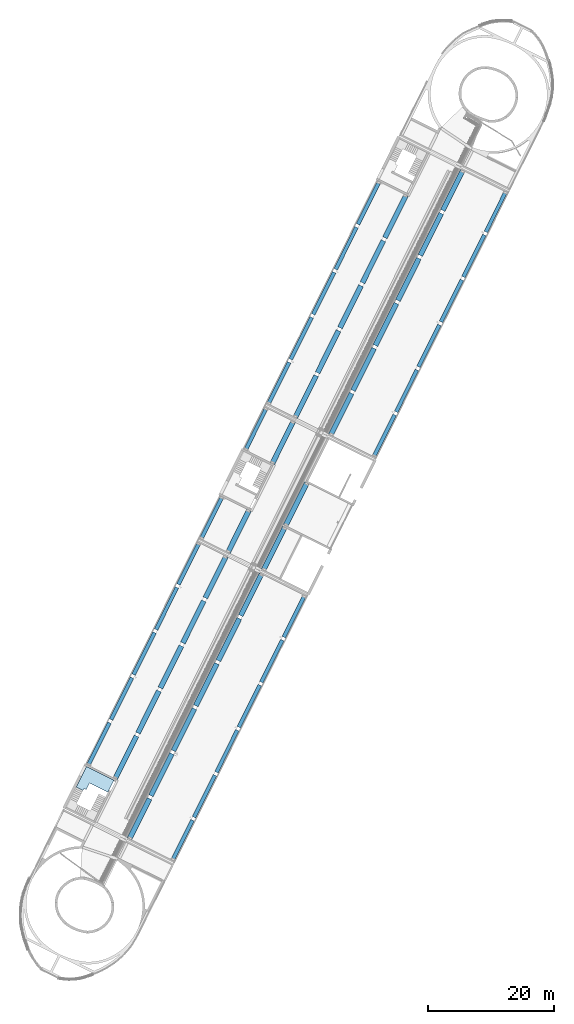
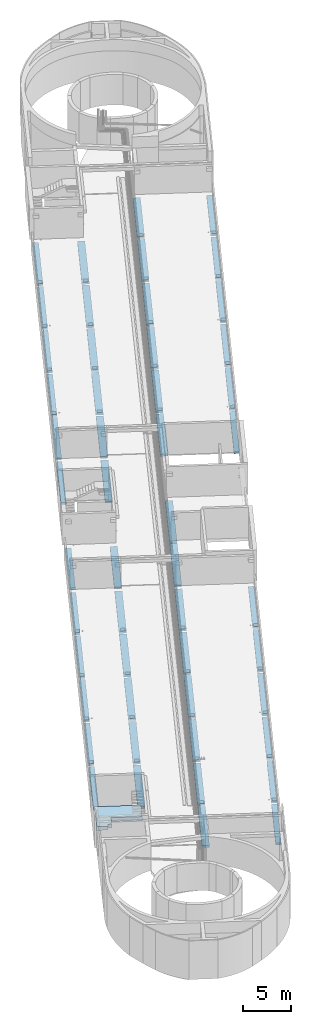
# One storey, part 1 of 47: 50 beams, 1 slab.
"""IFC2X3 building model written with IfcOpenShell, lengths in metres."""

from ifc_helpers import new_model, entity, si_unit, converted_unit, derived_unit, direction, frame, frame_2d, origin, place, context, subcontext, project, spatial, polyline, rectangle, outline, extrude, material, layer, layer_set, layer_usage, element, save


model = new_model("IFC2X3")

# Units and contexts
model_context = context("Model", 3, precision=1e-05, world=origin(), true_north=direction((0.894925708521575, 0.446215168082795)))
context_of_model = context(None, 3, precision=1e-05, world=origin(), true_north=direction((0.894925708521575, 0.446215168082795)))
body_context = subcontext(model_context, "Body", "Model", "MODEL_VIEW")
ifc_project = project(units=[si_unit("LENGTHUNIT", "METRE"), si_unit("AREAUNIT", "SQUARE_METRE"), si_unit("VOLUMEUNIT", "CUBIC_METRE"), converted_unit("PLANEANGLEUNIT", "DEGREE", entity("IfcRatioMeasure", 0.0174532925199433), si_unit("PLANEANGLEUNIT", "RADIAN"), dimensions=[0, 0, 0, 0, 0, 0, 0]), si_unit("MASSUNIT", "GRAM", prefix="KILO"), si_unit("TIMEUNIT", "SECOND"), si_unit("FREQUENCYUNIT", "HERTZ"), si_unit("THERMODYNAMICTEMPERATUREUNIT", "DEGREE_CELSIUS"), derived_unit("THERMALTRANSMITTANCEUNIT", [(si_unit("MASSUNIT", "GRAM", prefix="KILO"), 1), (si_unit("THERMODYNAMICTEMPERATUREUNIT", "KELVIN"), -1), (si_unit("TIMEUNIT", "SECOND"), -3)]), derived_unit("VOLUMETRICFLOWRATEUNIT", [(si_unit("LENGTHUNIT", "METRE"), 3), (si_unit("TIMEUNIT", "SECOND"), -1)]), si_unit("ELECTRICCURRENTUNIT", "AMPERE"), si_unit("ELECTRICVOLTAGEUNIT", "VOLT"), si_unit("POWERUNIT", "WATT"), si_unit("FORCEUNIT", "NEWTON", prefix="KILO"), si_unit("ILLUMINANCEUNIT", "LUX"), si_unit("LUMINOUSFLUXUNIT", "LUMEN"), si_unit("LUMINOUSINTENSITYUNIT", "CANDELA"), si_unit("PRESSUREUNIT", "PASCAL")], contexts=[model_context, context_of_model])

# Site, building, storey
site_placement = place(None, frame((218.228324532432, 584.720189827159, 0.0), z_axis=(0.0, 0.0, 1.0), x_axis=(0.446215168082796, 0.894925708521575, 0.0)))
site = spatial("IfcSite", under=ifc_project, at=site_placement, Name="Default", CompositionType="ELEMENT")
building_placement = place(site_placement, origin())
building = spatial("IfcBuilding", under=site, at=building_placement, CompositionType="ELEMENT")
storey_placement = place(building_placement, frame((0.0, 0.0, 4.69)))
storey = spatial("IfcBuildingStorey", under=building, at=storey_placement, Name="1 - Piano Primo", CompositionType="ELEMENT", Elevation=4.69)

# Beams
beam_1_placement = place(storey_placement, frame((-44.5906659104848, 5.81892100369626, -0.4)))
element("IfcBeam", 1, at=beam_1_placement, inside=storey, Name="Prefabbricato - Trave rettangolare:TRave pref - 60 x 26", ObjectType="Prefabbricato - Trave rettangolare:TRave pref - 60 x 26", context=body_context, shape_type="SweptSolid", body=[
    extrude(rectangle(XDim=0.26, YDim=0.600000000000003, at=frame_2d((-2.77555756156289e-16, 2.32869279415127e-14), x_axis=(1.0, 0.0))), frame((0.0104069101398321, 0.0, -0.130000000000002), z_axis=(1.0, 0.0, 0.0), x_axis=(0.0, 0.0, -1.0)), (0.0, 0.0, 1.0), 7.462),
])
beam_2_placement = place(storey_placement, frame((-52.8544493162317, 5.81892100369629, -0.4)))
element("IfcBeam", 2, at=beam_2_placement, inside=storey, Name="Prefabbricato - Trave rettangolare:TRave pref - 60 x 26", ObjectType="Prefabbricato - Trave rettangolare:TRave pref - 60 x 26", context=body_context, shape_type="SweptSolid", body=[
    extrude(rectangle(XDim=0.26, YDim=0.600000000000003, at=frame_2d((-2.63677968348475e-16, 2.54518628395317e-14), x_axis=(1.0, 0.0))), frame((0.154999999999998, 0.0, -0.130000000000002), z_axis=(1.0, 0.0, 0.0), x_axis=(0.0, 0.0, -1.0)), (0.0, 0.0, 1.0), 7.578),
])
beam_3_placement = place(storey_placement, frame((-36.587852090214, 5.81892100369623, -0.4)))
element("IfcBeam", 3, at=beam_3_placement, inside=storey, Name="Prefabbricato - Trave rettangolare:TRave pref - 60 x 26", ObjectType="Prefabbricato - Trave rettangolare:TRave pref - 60 x 26", context=body_context, shape_type="SweptSolid", body=[
    extrude(rectangle(XDim=0.26, YDim=0.600000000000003, at=frame_2d((-2.77555756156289e-16, 2.32869279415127e-14), x_axis=(1.0, 0.0))), frame((0.0104069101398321, 0.0, -0.130000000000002), z_axis=(1.0, 0.0, 0.0), x_axis=(0.0, 0.0, -1.0)), (0.0, 0.0, 1.0), 7.465),
])
beam_4_placement = place(storey_placement, frame((-28.5822204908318, 5.81892100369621, -0.4)))
element("IfcBeam", 4, at=beam_4_placement, inside=storey, Name="Prefabbricato - Trave rettangolare:TRave pref - 60 x 26", ObjectType="Prefabbricato - Trave rettangolare:TRave pref - 60 x 26", context=body_context, shape_type="SweptSolid", body=[
    extrude(rectangle(XDim=0.26, YDim=0.600000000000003, at=frame_2d((-2.77555756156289e-16, 2.32869279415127e-14), x_axis=(1.0, 0.0))), frame((0.0104069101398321, 0.0, -0.130000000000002), z_axis=(1.0, 0.0, 0.0), x_axis=(0.0, 0.0, -1.0)), (0.0, 0.0, 1.0), 7.463),
])
beam_5_placement = place(storey_placement, frame((-20.5643716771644, 5.81892100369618, -0.400000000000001)))
element("IfcBeam", 5, at=beam_5_placement, inside=storey, Name="Prefabbricato - Trave rettangolare:TRave pref - 60 x 26", ObjectType="Prefabbricato - Trave rettangolare:TRave pref - 60 x 26", context=body_context, shape_type="SweptSolid", body=[
    extrude(rectangle(XDim=0.26, YDim=0.600000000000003, at=frame_2d((2.77555756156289e-16, 2.38420394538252e-14), x_axis=(1.0, 0.0))), frame((-0.00500000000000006, 0.0, -0.130000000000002), z_axis=(1.0, 0.0, 0.0), x_axis=(0.0, 0.0, -1.0)), (0.0, 0.0, 1.0), 7.365),
])
beam_6_placement = place(storey_placement, frame((-44.5906659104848, 1.04892100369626, -0.4)))
element("IfcBeam", 6, at=beam_6_placement, inside=storey, Name="Prefabbricato - Trave rettangolare:TRave pref - 80 x 26", ObjectType="Prefabbricato - Trave rettangolare:TRave pref - 80 x 26", context=body_context, shape_type="SweptSolid", body=[
    extrude(rectangle(XDim=0.26, YDim=0.800000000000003, at=frame_2d((-2.63677968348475e-16, 2.38142838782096e-14), x_axis=(1.0, 0.0))), frame((0.000406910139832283, 0.0, -0.130000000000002), z_axis=(1.0, 0.0, 0.0), x_axis=(0.0, 0.0, -1.0)), (0.0, 0.0, 1.0), 7.482),
])
beam_7_placement = place(storey_placement, frame((-52.6975115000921, 1.04892100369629, -0.4)))
element("IfcBeam", 7, at=beam_7_placement, inside=storey, Name="Prefabbricato - Trave rettangolare:TRave pref - 80 x 26", ObjectType="Prefabbricato - Trave rettangolare:TRave pref - 80 x 26", context=body_context, shape_type="SweptSolid", body=[
    extrude(rectangle(XDim=0.26, YDim=0.800000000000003, at=frame_2d((-2.63677968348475e-16, 2.38142838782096e-14), x_axis=(1.0, 0.0))), frame((0.000499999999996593, 0.0, -0.130000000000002), z_axis=(1.0, 0.0, 0.0), x_axis=(0.0, 0.0, -1.0)), (0.0, 0.0, 1.0), 7.586),
])
beam_8_placement = place(storey_placement, frame((-36.587852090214, 1.04892100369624, -0.4)))
element("IfcBeam", 8, at=beam_8_placement, inside=storey, Name="Prefabbricato - Trave rettangolare:TRave pref - 80 x 26", ObjectType="Prefabbricato - Trave rettangolare:TRave pref - 80 x 26", context=body_context, shape_type="SweptSolid", body=[
    extrude(rectangle(XDim=0.26, YDim=0.800000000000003, at=frame_2d((-2.63677968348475e-16, 2.38142838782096e-14), x_axis=(1.0, 0.0))), frame((0.000406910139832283, 0.0, -0.130000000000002), z_axis=(1.0, 0.0, 0.0), x_axis=(0.0, 0.0, -1.0)), (0.0, 0.0, 1.0), 7.485),
])
beam_9_placement = place(storey_placement, frame((-28.5822204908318, 1.04892100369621, -0.4)))
element("IfcBeam", 9, at=beam_9_placement, inside=storey, Name="Prefabbricato - Trave rettangolare:TRave pref - 80 x 26", ObjectType="Prefabbricato - Trave rettangolare:TRave pref - 80 x 26", context=body_context, shape_type="SweptSolid", body=[
    extrude(rectangle(XDim=0.26, YDim=0.800000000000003, at=frame_2d((-2.63677968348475e-16, 2.38142838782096e-14), x_axis=(1.0, 0.0))), frame((0.000406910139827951, 0.0, -0.130000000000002), z_axis=(1.0, 0.0, 0.0), x_axis=(0.0, 0.0, -1.0)), (0.0, 0.0, 1.0), 7.483),
])
beam_10_placement = place(storey_placement, frame((-20.5643716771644, 1.04892100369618, -0.400000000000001)))
element("IfcBeam", 10, at=beam_10_placement, inside=storey, Name="Prefabbricato - Trave rettangolare:TRave pref - 80 x 26", ObjectType="Prefabbricato - Trave rettangolare:TRave pref - 80 x 26", context=body_context, shape_type="SweptSolid", body=[
    extrude(rectangle(XDim=0.26, YDim=0.800000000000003, at=frame_2d((2.77555756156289e-16, 2.35644836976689e-14), x_axis=(1.0, 0.0))), frame((-0.0149999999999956, 0.0, -0.130000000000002), z_axis=(1.0, 0.0, 0.0), x_axis=(0.0, 0.0, -1.0)), (0.0, 0.0, 1.0), 7.395),
])
beam_11_placement = place(storey_placement, frame((-44.5906659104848, -5.25107899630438, -0.4)))
element("IfcBeam", 11, at=beam_11_placement, inside=storey, Name="Prefabbricato - Trave rettangolare:TRave pref - 80 x 26", ObjectType="Prefabbricato - Trave rettangolare:TRave pref - 80 x 26", context=body_context, shape_type="SweptSolid", body=[
    extrude(rectangle(XDim=0.26, YDim=0.800000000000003, at=frame_2d((-2.63677968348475e-16, 2.43693953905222e-14), x_axis=(1.0, 0.0))), frame((0.000406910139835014, 0.0, -0.130000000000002), z_axis=(1.0, 0.0, 0.0), x_axis=(0.0, 0.0, -1.0)), (0.0, 0.0, 1.0), 7.482),
])
beam_12_placement = place(storey_placement, frame((-52.6798562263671, -5.25107899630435, -0.4)))
element("IfcBeam", 12, at=beam_12_placement, inside=storey, Name="Prefabbricato - Trave rettangolare:TRave pref - 80 x 26", ObjectType="Prefabbricato - Trave rettangolare:TRave pref - 80 x 26", context=body_context, shape_type="SweptSolid", body=[
    extrude(rectangle(XDim=0.26, YDim=0.800000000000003, at=frame_2d((-2.63677968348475e-16, 2.35644836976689e-14), x_axis=(1.0, 0.0))), frame((0.0961723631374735, 0.0, -0.130000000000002), z_axis=(1.0, 0.0, 0.0), x_axis=(0.0, 0.0, -1.0)), (0.0, 0.0, 1.0), 7.473),
])
beam_13_placement = place(storey_placement, frame((-37.1078520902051, -5.2510789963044, -0.4)))
element("IfcBeam", 13, at=beam_13_placement, inside=storey, Name="Prefabbricato - Trave rettangolare:TRave pref - 80 x 26", ObjectType="Prefabbricato - Trave rettangolare:TRave pref - 80 x 26", context=body_context, shape_type="SweptSolid", body=[
    extrude(rectangle(XDim=0.26, YDim=0.800000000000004, at=frame_2d((-2.63677968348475e-16, 2.32869279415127e-14), x_axis=(1.0, 0.0))), frame((0.520315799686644, 0.0, -0.130000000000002), z_axis=(1.0, 0.0, 0.0), x_axis=(0.0, 0.0, -1.0)), (0.0, 0.0, 1.0), 7.48500000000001),
])
beam_14_placement = place(storey_placement, frame((-28.5822204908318, -5.25107899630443, -0.4)))
element("IfcBeam", 14, at=beam_14_placement, inside=storey, Name="Prefabbricato - Trave rettangolare:TRave pref - 80 x 26", ObjectType="Prefabbricato - Trave rettangolare:TRave pref - 80 x 26", context=body_context, shape_type="SweptSolid", body=[
    extrude(rectangle(XDim=0.26, YDim=0.800000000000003, at=frame_2d((-2.63677968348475e-16, 2.43693953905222e-14), x_axis=(1.0, 0.0))), frame((-0.000593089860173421, 0.0, -0.130000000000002), z_axis=(1.0, 0.0, 0.0), x_axis=(0.0, 0.0, -1.0)), (0.0, 0.0, 1.0), 7.484),
])
beam_15_placement = place(storey_placement, frame((-20.5443716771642, -5.25107899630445, -0.400000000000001)))
element("IfcBeam", 15, at=beam_15_placement, inside=storey, Name="Prefabbricato - Trave rettangolare:TRave pref - 80 x 26", ObjectType="Prefabbricato - Trave rettangolare:TRave pref - 80 x 26", context=body_context, shape_type="SweptSolid", body=[
    extrude(rectangle(XDim=0.26, YDim=0.800000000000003, at=frame_2d((2.63677968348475e-16, 2.32869279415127e-14), x_axis=(1.0, 0.0))), frame((-0.0350000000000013, 0.0, -0.130000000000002), z_axis=(1.0, 0.0, 0.0), x_axis=(0.0, 0.0, -1.0)), (0.0, 0.0, 1.0), 7.395),
])
beam_16_placement = place(storey_placement, frame((-44.5906659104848, -12.9010789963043, -0.4)))
element("IfcBeam", 16, at=beam_16_placement, inside=storey, Name="Prefabbricato - Trave rettangolare:TRave pref - 60 x 26", ObjectType="Prefabbricato - Trave rettangolare:TRave pref - 60 x 26", context=body_context, shape_type="SweptSolid", body=[
    extrude(rectangle(XDim=0.26, YDim=0.600000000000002, at=frame_2d((-2.63677968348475e-16, -2.38142838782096e-14), x_axis=(1.0, 0.0))), frame((0.0104069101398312, 0.0, -0.130000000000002), z_axis=(1.0, 0.0, 0.0), x_axis=(0.0, 0.0, -1.0)), (0.0, 0.0, 1.0), 7.462),
])
beam_17_placement = place(storey_placement, frame((-36.5878520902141, -12.9010789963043, -0.4)))
element("IfcBeam", 17, at=beam_17_placement, inside=storey, Name="Prefabbricato - Trave rettangolare:TRave pref - 60 x 26", ObjectType="Prefabbricato - Trave rettangolare:TRave pref - 60 x 26", context=body_context, shape_type="SweptSolid", body=[
    extrude(rectangle(XDim=0.26, YDim=0.600000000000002, at=frame_2d((-2.63677968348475e-16, -2.38142838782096e-14), x_axis=(1.0, 0.0))), frame((0.0104069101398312, 0.0, -0.130000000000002), z_axis=(1.0, 0.0, 0.0), x_axis=(0.0, 0.0, -1.0)), (0.0, 0.0, 1.0), 7.465),
])
beam_18_placement = place(storey_placement, frame((-28.5822204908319, -12.9010789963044, -0.4)))
element("IfcBeam", 18, at=beam_18_placement, inside=storey, Name="Prefabbricato - Trave rettangolare:TRave pref - 60 x 26", ObjectType="Prefabbricato - Trave rettangolare:TRave pref - 60 x 26", context=body_context, shape_type="SweptSolid", body=[
    extrude(rectangle(XDim=0.26, YDim=0.600000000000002, at=frame_2d((-2.63677968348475e-16, -2.38142838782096e-14), x_axis=(1.0, 0.0))), frame((0.0104069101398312, 0.0, -0.130000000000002), z_axis=(1.0, 0.0, 0.0), x_axis=(0.0, 0.0, -1.0)), (0.0, 0.0, 1.0), 7.463),
])
beam_19_placement = place(storey_placement, frame((-20.5443716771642, -12.9010789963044, -0.400000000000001)))
element("IfcBeam", 19, at=beam_19_placement, inside=storey, Name="Prefabbricato - Trave rettangolare:TRave pref - 60 x 26", ObjectType="Prefabbricato - Trave rettangolare:TRave pref - 60 x 26", context=body_context, shape_type="SweptSolid", body=[
    extrude(rectangle(XDim=0.26, YDim=0.600000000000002, at=frame_2d((2.63677968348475e-16, -2.38142838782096e-14), x_axis=(1.0, 0.0))), frame((-0.0250000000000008, 0.0, -0.130000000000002), z_axis=(1.0, 0.0, 0.0), x_axis=(0.0, 0.0, -1.0)), (0.0, 0.0, 1.0), 7.385),
])
beam_20_placement = place(storey_placement, frame((-52.6798562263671, -12.9010789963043, -0.4)))
element("IfcBeam", 20, at=beam_20_placement, inside=storey, Name="Prefabbricato - Trave rettangolare:TRave pref - 60 x 26", ObjectType="Prefabbricato - Trave rettangolare:TRave pref - 60 x 26", context=body_context, shape_type="SweptSolid", body=[
    extrude(rectangle(XDim=0.26, YDim=0.600000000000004, at=frame_2d((-2.77555756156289e-16, 2.27595720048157e-14), x_axis=(1.0, 0.0))), frame((0.106172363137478, 0.0, -0.130000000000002), z_axis=(1.0, 0.0, 0.0), x_axis=(0.0, 0.0, -1.0)), (0.0, 0.0, 1.0), 7.45300000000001),
])
beam_21_placement = place(storey_placement, frame((-52.6798562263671, -12.9010789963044, -0.4), z_axis=(0.0, 0.0, 1.0), x_axis=(-1.0, 0.0, 0.0)))
element("IfcBeam", 21, at=beam_21_placement, inside=storey, Name="Prefabbricato - Trave rettangolare:TRave pref - 60 x 26", ObjectType="Prefabbricato - Trave rettangolare:TRave pref - 60 x 26", context=body_context, shape_type="SweptSolid", body=[
    extrude(rectangle(XDim=0.26, YDim=0.600000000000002, at=frame_2d((-2.77555756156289e-16, 2.38420394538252e-14), x_axis=(1.0, 0.0))), frame((0.434296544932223, 0.0, -0.130000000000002), z_axis=(1.0, 0.0, 0.0), x_axis=(0.0, 0.0, -1.0)), (0.0, 0.0, 1.0), 7.115),
])
beam_22_placement = place(storey_placement, frame((-60.2206070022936, -5.25107899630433, -0.4)))
element("IfcBeam", 22, at=beam_22_placement, inside=storey, Name="Prefabbricato - Trave rettangolare:TRave pref - 80 x 26", ObjectType="Prefabbricato - Trave rettangolare:TRave pref - 80 x 26", context=body_context, shape_type="SweptSolid", body=[
    extrude(rectangle(XDim=0.26, YDim=0.800000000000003, at=frame_2d((-2.77555756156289e-16, 2.19269047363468e-14), x_axis=(1.0, 0.0))), frame((0.0, 0.0, -0.130000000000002), z_axis=(1.0, 0.0, 0.0), x_axis=(0.0, 0.0, -1.0)), (0.0, 0.0, 1.0), 7.116),
])
beam_23_placement = place(storey_placement, frame((-12.3107850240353, 5.81892100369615, -0.4)))
element("IfcBeam", 23, at=beam_23_placement, inside=storey, Name="Prefabbricato - Trave rettangolare:TRave pref - 60 x 26", ObjectType="Prefabbricato - Trave rettangolare:TRave pref - 60 x 26", context=body_context, shape_type="SweptSolid", body=[
    extrude(rectangle(XDim=0.26, YDim=0.600000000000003, at=frame_2d((-2.77555756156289e-16, 2.3259172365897e-14), x_axis=(1.0, 0.0))), frame((0.0, 0.0, -0.130000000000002), z_axis=(1.0, 0.0, 0.0), x_axis=(0.0, 0.0, -1.0)), (0.0, 0.0, 1.0), 7.32),
])
beam_24_placement = place(storey_placement, frame((-12.4557850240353, 1.04892100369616, -0.4)))
element("IfcBeam", 24, at=beam_24_placement, inside=storey, Name="Prefabbricato - Trave rettangolare:TRave pref - 80 x 26", ObjectType="Prefabbricato - Trave rettangolare:TRave pref - 80 x 26", context=body_context, shape_type="SweptSolid", body=[
    extrude(rectangle(XDim=0.26, YDim=0.800000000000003, at=frame_2d((2.77555756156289e-16, 2.33424390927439e-14), x_axis=(1.0, 0.0))), frame((0.0, 0.0, -0.130000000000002), z_axis=(1.0, 0.0, 0.0), x_axis=(0.0, 0.0, -1.0)), (0.0, 0.0, 1.0), 7.46),
])
beam_25_placement = place(storey_placement, frame((3.16421497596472, -5.25107899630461, -0.4), z_axis=(0.0, 0.0, 1.0), x_axis=(-1.0, 0.0, 0.0)))
element("IfcBeam", 25, at=beam_25_placement, inside=storey, Name="Prefabbricato - Trave rettangolare:TRave pref - 80 x 26", ObjectType="Prefabbricato - Trave rettangolare:TRave pref - 80 x 26", context=body_context, shape_type="SweptSolid", body=[
    extrude(rectangle(XDim=0.26, YDim=0.800000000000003, at=frame_2d((-2.63677968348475e-16, 2.43693953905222e-14), x_axis=(1.0, 0.0))), frame((0.150293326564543, 0.0, -0.130000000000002), z_axis=(1.0, 0.0, 0.0), x_axis=(0.0, 0.0, -1.0)), (0.0, 0.0, 1.0), 7.598),
])
beam_26_placement = place(storey_placement, frame((19.1758295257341, -5.25107899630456, -0.4), z_axis=(0.0, 0.0, 1.0), x_axis=(-1.0, 0.0, 0.0)))
element("IfcBeam", 26, at=beam_26_placement, inside=storey, Name="Prefabbricato - Trave rettangolare:TRave pref - 80 x 26", ObjectType="Prefabbricato - Trave rettangolare:TRave pref - 80 x 26", context=body_context, shape_type="SweptSolid", body=[
    extrude(rectangle(XDim=0.26, YDim=0.800000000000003, at=frame_2d((-2.63677968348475e-16, 2.43693953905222e-14), x_axis=(1.0, 0.0))), frame((0.260307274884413, 0.0, -0.130000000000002), z_axis=(1.0, 0.0, 0.0), x_axis=(0.0, 0.0, -1.0)), (0.0, 0.0, 1.0), 7.416),
])
beam_27_placement = place(storey_placement, frame((35.1664961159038, -5.25107899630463, -0.400000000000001)))
element("IfcBeam", 27, at=beam_27_placement, inside=storey, Name="Prefabbricato - Trave rettangolare:TRave pref - 80 x 26", ObjectType="Prefabbricato - Trave rettangolare:TRave pref - 80 x 26", context=body_context, shape_type="SweptSolid", body=[
    extrude(rectangle(XDim=0.26, YDim=0.800000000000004, at=frame_2d((2.63677968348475e-16, 2.46469511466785e-14), x_axis=(1.0, 0.0))), frame((0.260053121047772, 0.0, -0.130000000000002), z_axis=(1.0, 0.0, 0.0), x_axis=(0.0, 0.0, -1.0)), (0.0, 0.0, 1.0), 7.473),
])
beam_28_placement = place(storey_placement, frame((27.1690451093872, -5.25107899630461, -0.4)))
element("IfcBeam", 28, at=beam_28_placement, inside=storey, Name="Prefabbricato - Trave rettangolare:TRave pref - 80 x 26", ObjectType="Prefabbricato - Trave rettangolare:TRave pref - 80 x 26", context=body_context, shape_type="SweptSolid", body=[
    extrude(rectangle(XDim=0.26, YDim=0.800000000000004, at=frame_2d((2.63677968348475e-16, 2.43693953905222e-14), x_axis=(1.0, 0.0))), frame((0.260225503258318, 0.0, -0.130000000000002), z_axis=(1.0, 0.0, 0.0), x_axis=(0.0, 0.0, -1.0)), (0.0, 0.0, 1.0), 7.477),
])
beam_29_placement = place(storey_placement, frame((43.1596023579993, -5.25107899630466, -0.4)))
element("IfcBeam", 29, at=beam_29_placement, inside=storey, Name="Prefabbricato - Trave rettangolare:TRave pref - 80 x 26", ObjectType="Prefabbricato - Trave rettangolare:TRave pref - 80 x 26", context=body_context, shape_type="SweptSolid", body=[
    extrude(rectangle(XDim=0.26, YDim=0.800000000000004, at=frame_2d((2.63677968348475e-16, 2.43693953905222e-14), x_axis=(1.0, 0.0))), frame((0.260370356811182, 0.0, -0.130000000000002), z_axis=(1.0, 0.0, 0.0), x_axis=(0.0, 0.0, -1.0)), (0.0, 0.0, 1.0), 7.478),
])
beam_30_placement = place(storey_placement, frame((51.1583430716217, -5.25107899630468, -0.4)))
element("IfcBeam", 30, at=beam_30_placement, inside=storey, Name="Prefabbricato - Trave rettangolare:TRave pref - 80 x 26", ObjectType="Prefabbricato - Trave rettangolare:TRave pref - 80 x 26", context=body_context, shape_type="SweptSolid", body=[
    extrude(rectangle(XDim=0.26, YDim=0.800000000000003, at=frame_2d((-2.77555756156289e-16, 4.54636328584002e-14), x_axis=(1.0, 0.0))), frame((0.260999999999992, 0.0, -0.130000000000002), z_axis=(1.0, 0.0, 0.0), x_axis=(0.0, 0.0, -1.0)), (0.0, 0.0, 1.0), 7.10900000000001),
])
beam_31_placement = place(storey_placement, frame((19.1758295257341, -5.25107899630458, -0.4)))
element("IfcBeam", 31, at=beam_31_placement, inside=storey, Name="Prefabbricato - Trave rettangolare:TRave pref - 80 x 26", ObjectType="Prefabbricato - Trave rettangolare:TRave pref - 80 x 26", context=body_context, shape_type="SweptSolid", body=[
    extrude(rectangle(XDim=0.26, YDim=0.800000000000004, at=frame_2d((-2.63677968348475e-16, 2.46469511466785e-14), x_axis=(1.0, 0.0))), frame((0.260107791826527, 0.0, -0.130000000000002), z_axis=(1.0, 0.0, 0.0), x_axis=(0.0, 0.0, -1.0)), (0.0, 0.0, 1.0), 7.473),
])
beam_32_placement = place(storey_placement, frame((19.1758295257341, 1.04892100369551, -0.4), z_axis=(0.0, 0.0, 1.0), x_axis=(-1.0, 0.0, 0.0)))
element("IfcBeam", 32, at=beam_32_placement, inside=storey, Name="Prefabbricato - Trave rettangolare:TRave pref - 80 x 26", ObjectType="Prefabbricato - Trave rettangolare:TRave pref - 80 x 26", context=body_context, shape_type="SweptSolid", body=[
    extrude(rectangle(XDim=0.26, YDim=0.800000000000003, at=frame_2d((-2.77555756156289e-16, 2.40918396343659e-14), x_axis=(1.0, 0.0))), frame((0.260307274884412, 0.0, -0.130000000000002), z_axis=(1.0, 0.0, 0.0), x_axis=(0.0, 0.0, -1.0)), (0.0, 0.0, 1.0), 7.416),
])
beam_33_placement = place(storey_placement, frame((35.1664961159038, 1.04892100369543, -0.400000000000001)))
element("IfcBeam", 33, at=beam_33_placement, inside=storey, Name="Prefabbricato - Trave rettangolare:TRave pref - 80 x 26", ObjectType="Prefabbricato - Trave rettangolare:TRave pref - 80 x 26", context=body_context, shape_type="SweptSolid", body=[
    extrude(rectangle(XDim=0.26, YDim=0.800000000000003, at=frame_2d((2.63677968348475e-16, 2.43693953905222e-14), x_axis=(1.0, 0.0))), frame((0.260053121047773, 0.0, -0.130000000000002), z_axis=(1.0, 0.0, 0.0), x_axis=(0.0, 0.0, -1.0)), (0.0, 0.0, 1.0), 7.473),
])
beam_34_placement = place(storey_placement, frame((27.1690451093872, 1.04892100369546, -0.4)))
element("IfcBeam", 34, at=beam_34_placement, inside=storey, Name="Prefabbricato - Trave rettangolare:TRave pref - 80 x 26", ObjectType="Prefabbricato - Trave rettangolare:TRave pref - 80 x 26", context=body_context, shape_type="SweptSolid", body=[
    extrude(rectangle(XDim=0.26, YDim=0.800000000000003, at=frame_2d((2.63677968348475e-16, 2.43693953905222e-14), x_axis=(1.0, 0.0))), frame((0.260225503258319, 0.0, -0.130000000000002), z_axis=(1.0, 0.0, 0.0), x_axis=(0.0, 0.0, -1.0)), (0.0, 0.0, 1.0), 7.477),
])
beam_35_placement = place(storey_placement, frame((43.4159369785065, 1.04892100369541, -0.4)))
element("IfcBeam", 35, at=beam_35_placement, inside=storey, Name="Prefabbricato - Trave rettangolare:TRave pref - 80 x 26", ObjectType="Prefabbricato - Trave rettangolare:TRave pref - 80 x 26", context=body_context, shape_type="SweptSolid", body=[
    extrude(rectangle(XDim=0.26, YDim=0.800000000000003, at=frame_2d((-2.77555756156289e-16, 2.46191955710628e-14), x_axis=(1.0, 0.0))), frame((0.00399999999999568, 0.0, -0.130000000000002), z_axis=(1.0, 0.0, 0.0), x_axis=(0.0, 0.0, -1.0)), (0.0, 0.0, 1.0), 7.56600000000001),
])
beam_36_placement = place(storey_placement, frame((19.1758295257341, 1.04892100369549, -0.4)))
element("IfcBeam", 36, at=beam_36_placement, inside=storey, Name="Prefabbricato - Trave rettangolare:TRave pref - 80 x 26", ObjectType="Prefabbricato - Trave rettangolare:TRave pref - 80 x 26", context=body_context, shape_type="SweptSolid", body=[
    extrude(rectangle(XDim=0.26, YDim=0.800000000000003, at=frame_2d((-2.63677968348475e-16, 2.43693953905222e-14), x_axis=(1.0, 0.0))), frame((0.260107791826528, 0.0, -0.130000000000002), z_axis=(1.0, 0.0, 0.0), x_axis=(0.0, 0.0, -1.0)), (0.0, 0.0, 1.0), 7.473),
])
beam_37_placement = place(storey_placement, frame((11.4942149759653, -12.9010789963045, -0.4)))
element("IfcBeam", 37, at=beam_37_placement, inside=storey, Name="Prefabbricato - Trave rettangolare:TRave pref - 60 x 26", ObjectType="Prefabbricato - Trave rettangolare:TRave pref - 60 x 26", context=body_context, shape_type="SweptSolid", body=[
    extrude(rectangle(XDim=0.26, YDim=0.600000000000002, at=frame_2d((-2.77555756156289e-16, 2.38420394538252e-14), x_axis=(1.0, 0.0))), frame((0.0, 0.0, -0.130000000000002), z_axis=(1.0, 0.0, 0.0), x_axis=(0.0, 0.0, -1.0)), (0.0, 0.0, 1.0), 7.412),
])
beam_38_placement = place(storey_placement, frame((26.9090451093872, -12.9010789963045, -0.4), z_axis=(0.0, 0.0, 1.0), x_axis=(-1.0, 0.0, 0.0)))
element("IfcBeam", 38, at=beam_38_placement, inside=storey, Name="Prefabbricato - Trave rettangolare:TRave pref - 60 x 26", ObjectType="Prefabbricato - Trave rettangolare:TRave pref - 60 x 26", context=body_context, shape_type="SweptSolid", body=[
    extrude(rectangle(XDim=0.26, YDim=0.600000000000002, at=frame_2d((-2.77555756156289e-16, 2.38420394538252e-14), x_axis=(1.0, 0.0))), frame((0.0101077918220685, 0.0, -0.130000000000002), z_axis=(1.0, 0.0, 0.0), x_axis=(0.0, 0.0, -1.0)), (0.0, 0.0, 1.0), 7.453),
])
beam_39_placement = place(storey_placement, frame((27.4290451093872, -12.9010789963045, -0.4)))
element("IfcBeam", 39, at=beam_39_placement, inside=storey, Name="Prefabbricato - Trave rettangolare:TRave pref - 60 x 26", ObjectType="Prefabbricato - Trave rettangolare:TRave pref - 60 x 26", context=body_context, shape_type="SweptSolid", body=[
    extrude(rectangle(XDim=0.26, YDim=0.600000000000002, at=frame_2d((-2.77555756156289e-16, 2.38420394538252e-14), x_axis=(1.0, 0.0))), frame((0.00999999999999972, 0.0, -0.130000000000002), z_axis=(1.0, 0.0, 0.0), x_axis=(0.0, 0.0, -1.0)), (0.0, 0.0, 1.0), 7.45700000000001),
])
beam_40_placement = place(storey_placement, frame((42.8996023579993, -12.9010789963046, -0.4), z_axis=(0.0, 0.0, 1.0), x_axis=(-1.0, 0.0, 0.0)))
element("IfcBeam", 40, at=beam_40_placement, inside=storey, Name="Prefabbricato - Trave rettangolare:TRave pref - 60 x 26", ObjectType="Prefabbricato - Trave rettangolare:TRave pref - 60 x 26", context=body_context, shape_type="SweptSolid", body=[
    extrude(rectangle(XDim=0.26, YDim=0.600000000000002, at=frame_2d((-2.77555756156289e-16, 2.38420394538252e-14), x_axis=(1.0, 0.0))), frame((0.0100531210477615, 0.0, -0.130000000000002), z_axis=(1.0, 0.0, 0.0), x_axis=(0.0, 0.0, -1.0)), (0.0, 0.0, 1.0), 7.45300000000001),
])
beam_41_placement = place(storey_placement, frame((51.4364369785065, -12.9010789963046, -0.4)))
element("IfcBeam", 41, at=beam_41_placement, inside=storey, Name="Prefabbricato - Trave rettangolare:TRave pref - 60 x 26", ObjectType="Prefabbricato - Trave rettangolare:TRave pref - 60 x 26", context=body_context, shape_type="SweptSolid", body=[
    extrude(rectangle(XDim=0.26, YDim=0.600000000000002, at=frame_2d((-2.77555756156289e-16, 2.38420394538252e-14), x_axis=(1.0, 0.0))), frame((-0.00849999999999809, 0.0, -0.130000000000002), z_axis=(1.0, 0.0, 0.0), x_axis=(0.0, 0.0, -1.0)), (0.0, 0.0, 1.0), 7.098),
])
beam_42_placement = place(storey_placement, frame((50.8927086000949, -12.9010789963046, -0.4), z_axis=(0.0, 0.0, 1.0), x_axis=(-1.0, 0.0, 0.0)))
element("IfcBeam", 42, at=beam_42_placement, inside=storey, Name="Prefabbricato - Trave rettangolare:TRave pref - 60 x 26", ObjectType="Prefabbricato - Trave rettangolare:TRave pref - 60 x 26", context=body_context, shape_type="SweptSolid", body=[
    extrude(rectangle(XDim=0.26, YDim=0.600000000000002, at=frame_2d((-2.77555756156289e-16, 2.38420394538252e-14), x_axis=(1.0, 0.0))), frame((0.00505312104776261, 0.0, -0.130000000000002), z_axis=(1.0, 0.0, 0.0), x_axis=(0.0, 0.0, -1.0)), (0.0, 0.0, 1.0), 7.458),
])
beam_43_placement = place(storey_placement, frame((11.4942149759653, 5.81892100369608, -0.4)))
element("IfcBeam", 43, at=beam_43_placement, inside=storey, Name="Prefabbricato - Trave rettangolare:TRave pref - 60 x 26", ObjectType="Prefabbricato - Trave rettangolare:TRave pref - 60 x 26", context=body_context, shape_type="SweptSolid", body=[
    extrude(rectangle(XDim=0.26, YDim=0.600000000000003, at=frame_2d((-2.77555756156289e-16, 2.32869279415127e-14), x_axis=(1.0, 0.0))), frame((0.0, 0.0, -0.130000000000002), z_axis=(1.0, 0.0, 0.0), x_axis=(0.0, 0.0, -1.0)), (0.0, 0.0, 1.0), 7.412),
])
beam_44_placement = place(storey_placement, frame((26.9090451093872, 5.81892100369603, -0.4), z_axis=(0.0, 0.0, 1.0), x_axis=(-1.0, 0.0, 0.0)))
element("IfcBeam", 44, at=beam_44_placement, inside=storey, Name="Prefabbricato - Trave rettangolare:TRave pref - 60 x 26", ObjectType="Prefabbricato - Trave rettangolare:TRave pref - 60 x 26", context=body_context, shape_type="SweptSolid", body=[
    extrude(rectangle(XDim=0.26, YDim=0.600000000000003, at=frame_2d((-2.77555756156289e-16, 2.32869279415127e-14), x_axis=(1.0, 0.0))), frame((0.0101077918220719, 0.0, -0.130000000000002), z_axis=(1.0, 0.0, 0.0), x_axis=(0.0, 0.0, -1.0)), (0.0, 0.0, 1.0), 7.453),
])
beam_45_placement = place(storey_placement, frame((27.4290451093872, 5.81892100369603, -0.4)))
element("IfcBeam", 45, at=beam_45_placement, inside=storey, Name="Prefabbricato - Trave rettangolare:TRave pref - 60 x 26", ObjectType="Prefabbricato - Trave rettangolare:TRave pref - 60 x 26", context=body_context, shape_type="SweptSolid", body=[
    extrude(rectangle(XDim=0.26, YDim=0.600000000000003, at=frame_2d((-2.77555756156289e-16, 2.32869279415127e-14), x_axis=(1.0, 0.0))), frame((0.0110000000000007, 0.0, -0.130000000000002), z_axis=(1.0, 0.0, 0.0), x_axis=(0.0, 0.0, -1.0)), (0.0, 0.0, 1.0), 7.456),
])
beam_46_placement = place(storey_placement, frame((42.8996023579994, 5.81892100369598, -0.4), z_axis=(0.0, 0.0, 1.0), x_axis=(-1.0, 0.0, 0.0)))
element("IfcBeam", 46, at=beam_46_placement, inside=storey, Name="Prefabbricato - Trave rettangolare:TRave pref - 60 x 26", ObjectType="Prefabbricato - Trave rettangolare:TRave pref - 60 x 26", context=body_context, shape_type="SweptSolid", body=[
    extrude(rectangle(XDim=0.26, YDim=0.600000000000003, at=frame_2d((-2.77555756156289e-16, 2.32869279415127e-14), x_axis=(1.0, 0.0))), frame((0.0100531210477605, 0.0, -0.130000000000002), z_axis=(1.0, 0.0, 0.0), x_axis=(0.0, 0.0, -1.0)), (0.0, 0.0, 1.0), 7.45300000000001),
])
beam_47_placement = place(storey_placement, frame((43.5049369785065, 5.81892100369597, -0.4)))
element("IfcBeam", 47, at=beam_47_placement, inside=storey, Name="Prefabbricato - Trave rettangolare:TRave pref - 60 x 26", ObjectType="Prefabbricato - Trave rettangolare:TRave pref - 60 x 26", context=body_context, shape_type="SweptSolid", body=[
    extrude(rectangle(XDim=0.26, YDim=0.600000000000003, at=frame_2d((-2.77555756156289e-16, 2.43693953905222e-14), x_axis=(1.0, 0.0))), frame((-0.0760000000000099, 0.0, -0.130000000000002), z_axis=(1.0, 0.0, 0.0), x_axis=(0.0, 0.0, -1.0)), (0.0, 0.0, 1.0), 7.56600000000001),
])
beam_48_placement = place(storey_placement, frame((3.159214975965, 5.81892100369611, -0.4)))
element("IfcBeam", 48, at=beam_48_placement, inside=storey, Name="Prefabbricato - Trave rettangolare:TRave pref - 60 x 26", ObjectType="Prefabbricato - Trave rettangolare:TRave pref - 60 x 26", context=body_context, shape_type="SweptSolid", body=[
    extrude(rectangle(XDim=0.26, YDim=0.600000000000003, at=frame_2d((-2.63677968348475e-16, 2.38142838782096e-14), x_axis=(1.0, 0.0))), frame((0.155274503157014, 0.0, -0.130000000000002), z_axis=(1.0, 0.0, 0.0), x_axis=(0.0, 0.0, -1.0)), (0.0, 0.0, 1.0), 7.494),
])
beam_49_placement = place(storey_placement, frame((3.159214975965, 1.04892100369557, -0.4)))
element("IfcBeam", 49, at=beam_49_placement, inside=storey, Name="Prefabbricato - Trave rettangolare:TRave pref - 80 x 26", ObjectType="Prefabbricato - Trave rettangolare:TRave pref - 80 x 26", context=body_context, shape_type="SweptSolid", body=[
    extrude(rectangle(XDim=0.26, YDim=0.800000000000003, at=frame_2d((-2.63677968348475e-16, 2.43693953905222e-14), x_axis=(1.0, 0.0))), frame((0.15527450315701, 0.0, -0.130000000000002), z_axis=(1.0, 0.0, 0.0), x_axis=(0.0, 0.0, -1.0)), (0.0, 0.0, 1.0), 7.494),
])
beam_50_placement = place(storey_placement, frame((-12.6343716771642, -5.25107899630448, -0.400000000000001)))
element("IfcBeam", 50, at=beam_50_placement, inside=storey, Name="Prefabbricato - Trave rettangolare:TRave pref - 80 x 26", ObjectType="Prefabbricato - Trave rettangolare:TRave pref - 80 x 26", context=body_context, shape_type="SweptSolid", body=[
    extrude(rectangle(XDim=0.259999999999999, YDim=0.800000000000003, at=frame_2d((2.77555756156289e-16, 2.30093721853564e-14), x_axis=(1.0, 0.0))), frame((0.150499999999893, 0.0, -0.130000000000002), z_axis=(1.0, 0.0, 0.0), x_axis=(0.0, 0.0, -1.0)), (0.0, 0.0, 1.0), 7.599),
])

# Slab
ifc_material_1 = material(Name="Asfalto, bitume")
ifc_layer_1 = layer(ifc_material_1, 0.01)
ifc_material_2 = material(Name="Sabbia e Calcestruzzo")
ifc_layer_2 = layer(ifc_material_2, 0.08)
ifc_material_3 = material(Name="Calcestruzzo")
ifc_layer_3 = layer(ifc_material_3, 0.4)
ifc_layer_set = layer_set([ifc_layer_1, ifc_layer_2, ifc_layer_3], Name="Pavimento:Scala PT 41 cm")
ifc_layer_usage = layer_usage(ifc_layer_set, "AXIS3", "POSITIVE", 0.0)
slab_placement = place(storey_placement, origin())
element("IfcSlab", 51, at=slab_placement, inside=storey, material=ifc_layer_usage, Name="Pavimento:Scala PT 41 cm", ObjectType="Pavimento:Scala PT 41 cm", PredefinedType="FLOOR", context=body_context, shape_type="SweptSolid", body=[
    extrude(outline(polyline([(0.727460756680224, -1.38512148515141), (1.91746075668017, -1.38512148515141), (1.91746075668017, 2.27504049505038), (-2.96253924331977, 2.27504049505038), (-2.96253924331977, 0.145040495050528), (0.317617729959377, 0.145040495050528), (0.317617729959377, -1.03495950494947), (0.727460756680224, -1.03495950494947), (0.727460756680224, -1.38512148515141)])), frame((-55.2844898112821, 4.07146024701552, 0.0), z_axis=(0.0, 0.0, -1.0), x_axis=(0.0, 1.0, 0.0)), (0.0, 0.0, 1.0), 0.49),
])

save(model, "model.ifc")
